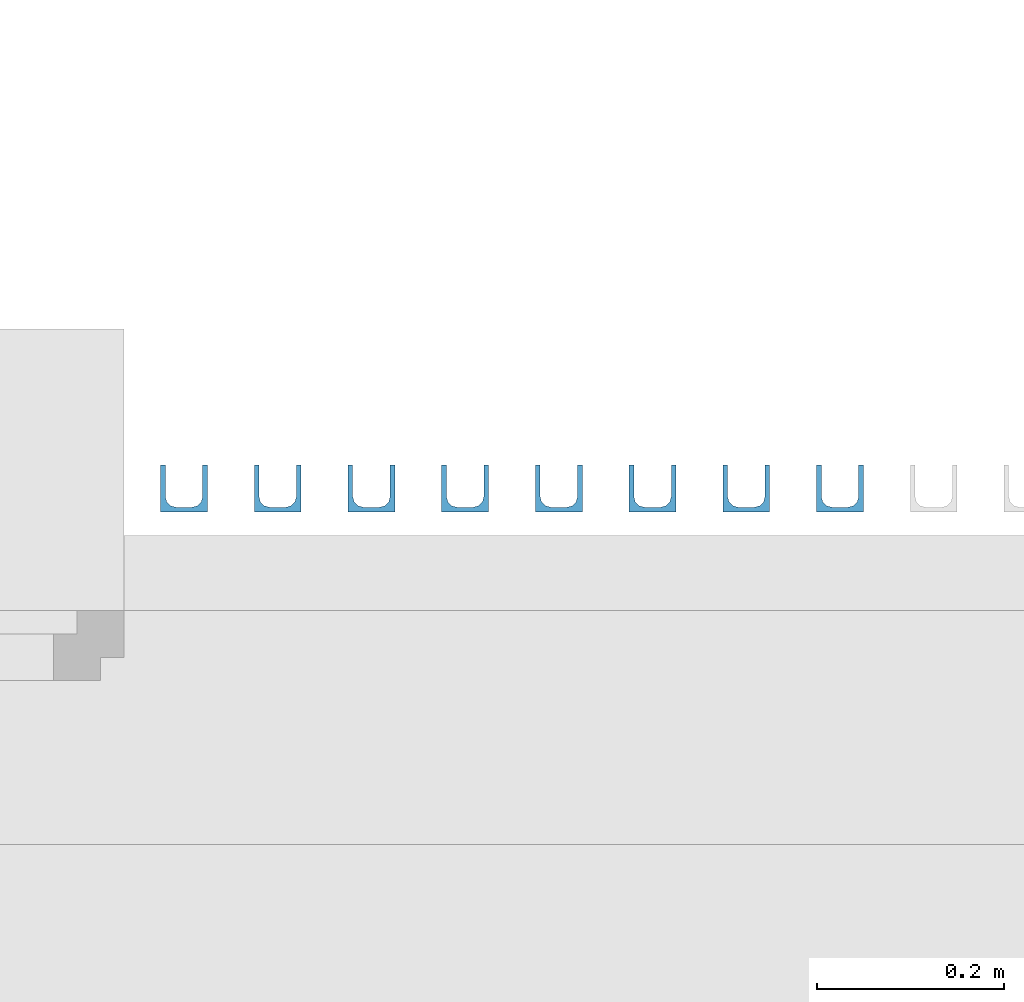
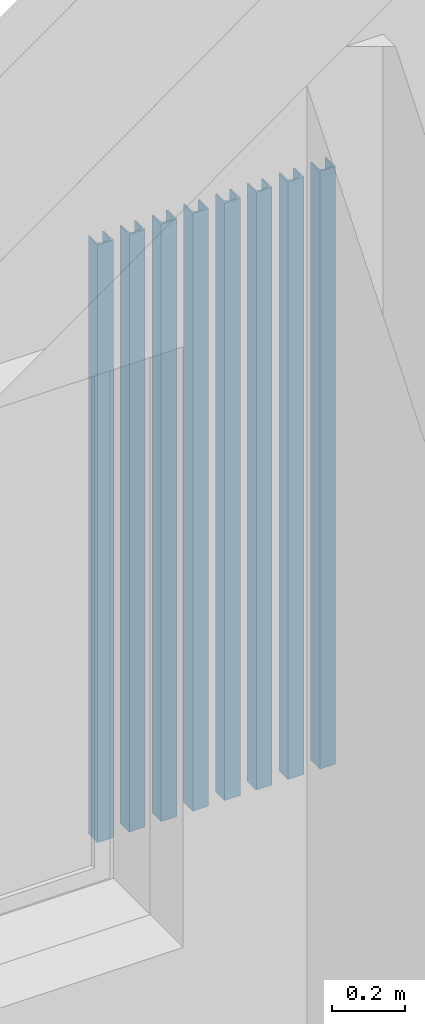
# One storey, part 46 of 100: 8 discrete accessories.
"""IFC2X3 building model written with IfcOpenShell, lengths in millimetres."""

from ifc_helpers import new_model, entity, si_unit, converted_unit, derived_unit, money_unit, direction, frame, origin_with_axes, place, context, subcontext, project, spatial, faceted_brep, source, transform, mapped, material, type_object, element, save


model = new_model("IFC2X3")

# Units and contexts
model_context = context("Model", 3, precision=0.01, world=origin_with_axes(), true_north=direction((0.0, 1.0)))
body_context = subcontext(model_context, "Body", "Model", "MODEL_VIEW")
ifc_project = project(units=[si_unit("LENGTHUNIT", "METRE", prefix="MILLI"), si_unit("AREAUNIT", "SQUARE_METRE"), si_unit("VOLUMEUNIT", "CUBIC_METRE"), converted_unit("PLANEANGLEUNIT", "DEGREE", entity("IfcPlaneAngleMeasure", 0.0174532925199), si_unit("PLANEANGLEUNIT", "RADIAN"), dimensions=[0, 0, 0, 0, 0, 0, 0]), si_unit("SOLIDANGLEUNIT", "STERADIAN"), money_unit("EUR"), converted_unit("TIMEUNIT", "Year", entity("IfcTimeMeasure", 31556926.0), si_unit("TIMEUNIT", "SECOND"), dimensions=[0, 0, 1, 0, 0, 0, 0]), si_unit("MASSUNIT", "GRAM", prefix="KILO"), si_unit("THERMODYNAMICTEMPERATUREUNIT", "DEGREE_CELSIUS"), si_unit("LUMINOUSINTENSITYUNIT", "LUMEN"), si_unit("ENERGYUNIT", "JOULE", prefix="MEGA"), derived_unit("THERMALCONDUCTANCEUNIT", [(si_unit("POWERUNIT", "WATT"), 1), (si_unit("LENGTHUNIT", "METRE"), -1), (si_unit("THERMODYNAMICTEMPERATUREUNIT", "KELVIN"), -1)]), derived_unit("SPECIFICHEATCAPACITYUNIT", [(si_unit("ENERGYUNIT", "JOULE"), 1), (si_unit("MASSUNIT", "GRAM", prefix="KILO"), -1), (si_unit("THERMODYNAMICTEMPERATUREUNIT", "KELVIN"), -1)]), derived_unit("MASSDENSITYUNIT", [(si_unit("MASSUNIT", "GRAM", prefix="KILO"), 1), (si_unit("VOLUMEUNIT", "CUBIC_METRE"), -1)])], contexts=[model_context])

# Site, building, storey
site_placement = place(None, origin_with_axes())
site = spatial("IfcSite", under=ifc_project, at=site_placement, Name="Politse- ja Piirivalveameti ning Päästeameti ühishoone", CompositionType="ELEMENT")
building_placement = place(site_placement, origin_with_axes())
building = spatial("IfcBuilding", under=site, at=building_placement, Name="Politse- ja Piirivalveameti ning Päästeameti ühishoone", CompositionType="ELEMENT")
storey_placement = place(building_placement, frame((0.0, 0.0, 3800.0), z_axis=(0.0, 0.0, 1.0), x_axis=(1.0, 0.0, 0.0)))
storey = spatial("IfcBuildingStorey", under=building, at=storey_placement, Name="Teine korrus", CompositionType="ELEMENT", Elevation=3800.0)

# Discrete accessories
ifc_material = material(Name="ET-05_Teras")
discrete_accessory_type = type_object("IfcDiscreteAccessoryType", Name="UAP Column 23")
shared_shape = source(origin_with_axes(), body_context, "Body", "Brep", [
    faceted_brep([(25.0, -25.0, 0.0), (25.0, -20.0, 0.0), (25.0, -20.0, 1990.0), (25.0, -25.0, 1990.0), (-25.0, -25.0, 0.0), (-25.0, 25.0, 0.0), (25.0, 25.0, 0.0), (25.0, 20.0, 0.0), (-8.5, 20.0, 0.0), (-14.25, 18.4592921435, 0.0), (-18.4592921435, 14.25, 0.0), (-20.0, 8.5, 0.0), (-20.0, -8.5, 0.0), (-18.4592921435, -14.25, 0.0), (-14.25, -18.4592921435, 0.0), (-8.5, -20.0, 0.0), (-8.5, -20.0, 1990.0), (-14.25, -18.4592921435, 1990.0), (-18.4592921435, -14.25, 1990.0), (-20.0, -8.5, 1990.0), (-20.0, 8.5, 1990.0), (-18.4592921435, 14.25, 1990.0), (-14.25, 18.4592921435, 1990.0), (-8.5, 20.0, 1990.0), (25.0, 20.0, 1990.0), (25.0, 25.0, 1990.0), (-25.0, 25.0, 1990.0), (-25.0, -25.0, 1990.0)], [[[0, 1, 2, 3]], [[0, 4, 5, 6, 7, 8, 9, 10, 11, 12, 13, 14, 15, 1]], [[1, 15, 16, 2]], [[3, 2, 16, 17, 18, 19, 20, 21, 22, 23, 24, 25, 26, 27]], [[4, 0, 3, 27]], [[5, 4, 27, 26]], [[6, 5, 26, 25]], [[7, 6, 25, 24]], [[8, 7, 24, 23]], [[9, 8, 23, 22]], [[10, 9, 22, 21]], [[11, 10, 21, 20]], [[12, 11, 20, 19]], [[13, 12, 19, 18]], [[14, 13, 18, 17]], [[15, 14, 17, 16]]]),
])
for number, where, z_axis, x_axis in (
    (1, (65135.2095212, 38059.9520832, 810.000049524), (0.0, 0.0, 1.0), (0.0, 1.0, 0.0)),
    (2, (65335.2095212, 38059.9520832, 810.000049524), (0.0, 0.0, 1.0), (0.0, 1.0, 0.0)),
    (3, (65235.2095212, 38059.9520832, 810.000049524), (0.0, 0.0, 1.0), (0.0, 1.0, 0.0)),
    (4, (64935.2095212, 38059.9520832, 810.000049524), (0.0, 0.0, 1.0), (0.0, 1.0, 0.0)),
    (5, (65435.2095212, 38059.9520832, 810.000049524), (0.0, 0.0, 1.0), (0.0, 1.0, 0.0)),
    (6, (65535.2095212, 38059.9520832, 810.000049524), (0.0, 0.0, 1.0), (0.0, 1.0, 0.0)),
    (7, (65035.2095212, 38059.9520832, 810.000049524), (0.0, 0.0, 1.0), (0.0, 1.0, 0.0)),
    (8, (64835.2095212, 38059.9520832, 810.000049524), (0.0, 0.0, 1.0), (0.0, 1.0, 0.0)),
):
    element("IfcDiscreteAccessory", number, at=place(storey_placement, frame(where, z_axis=z_axis, x_axis=x_axis)), inside=storey, type_object=discrete_accessory_type, material=ifc_material, Name="Fassaadiribid", context=body_context, shape_type="MappedRepresentation", body=[
        mapped(shared_shape, transform((0.0, 0.0, 0.0))),
    ])

save(model, "model.ifc")
